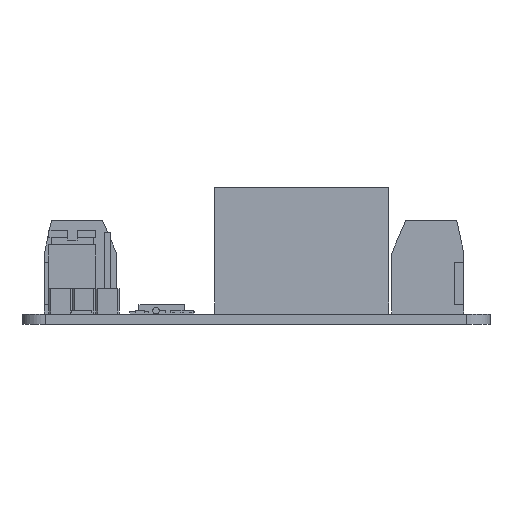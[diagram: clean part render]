
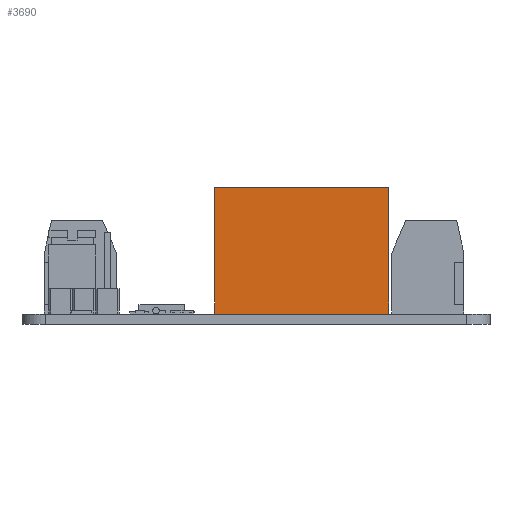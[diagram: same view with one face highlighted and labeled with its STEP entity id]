
A CAD part, front view. The second image highlights one B-rep face of the part: STEP entity #3690.
In plain terms, the highlighted planar face has unit normal (0, -1, 0).
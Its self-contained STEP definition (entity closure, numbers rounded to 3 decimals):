
#3651=CARTESIAN_POINT('Axis2P3D Location',(-4.4,-63.5,1.1)) ;
#3656=CARTESIAN_POINT('Line Origine',(-4.4,-63.5,7.85)) ;
#3660=CARTESIAN_POINT('Vertex',(-4.4,-63.5,1.1)) ;
#3662=CARTESIAN_POINT('Vertex',(-4.4,-63.5,14.6)) ;
#3665=CARTESIAN_POINT('Line Origine',(4.9,-63.5,1.1)) ;
#3669=CARTESIAN_POINT('Vertex',(14.2,-63.5,1.1)) ;
#3672=CARTESIAN_POINT('Line Origine',(14.2,-63.5,7.85)) ;
#3676=CARTESIAN_POINT('Vertex',(14.2,-63.5,14.6)) ;
#3679=CARTESIAN_POINT('Line Origine',(4.9,-63.5,14.6)) ;
#3652=DIRECTION('Axis2P3D Direction',(0.,-1.,0.)) ;
#3653=DIRECTION('Axis2P3D XDirection',(1.,0.,0.)) ;
#3657=DIRECTION('Vector Direction',(0.,0.,1.)) ;
#3666=DIRECTION('Vector Direction',(1.,0.,0.)) ;
#3673=DIRECTION('Vector Direction',(0.,0.,1.)) ;
#3680=DIRECTION('Vector Direction',(1.,0.,0.)) ;
#3654=AXIS2_PLACEMENT_3D('Plane Axis2P3D',#3651,#3652,#3653) ;
#3685=ORIENTED_EDGE('',*,*,#3664,.F.) ;
#3686=ORIENTED_EDGE('',*,*,#3671,.T.) ;
#3687=ORIENTED_EDGE('',*,*,#3678,.T.) ;
#3688=ORIENTED_EDGE('',*,*,#3683,.F.) ;
#3658=VECTOR('Line Direction',#3657,1.) ;
#3667=VECTOR('Line Direction',#3666,1.) ;
#3674=VECTOR('Line Direction',#3673,1.) ;
#3681=VECTOR('Line Direction',#3680,1.) ;
#3690=ADVANCED_FACE('Body.4',(#3689),#3655,.T.) ;
#3664=EDGE_CURVE('',#3661,#3663,#3659,.T.) ;
#3671=EDGE_CURVE('',#3661,#3670,#3668,.T.) ;
#3678=EDGE_CURVE('',#3670,#3677,#3675,.T.) ;
#3683=EDGE_CURVE('',#3663,#3677,#3682,.T.) ;
#3684=EDGE_LOOP('',(#3685,#3686,#3687,#3688)) ;
#3689=FACE_OUTER_BOUND('',#3684,.T.) ;
#3659=LINE('Line',#3656,#3658) ;
#3668=LINE('Line',#3665,#3667) ;
#3675=LINE('Line',#3672,#3674) ;
#3682=LINE('Line',#3679,#3681) ;
#3655=PLANE('Plane',#3654) ;
#3661=VERTEX_POINT('',#3660) ;
#3663=VERTEX_POINT('',#3662) ;
#3670=VERTEX_POINT('',#3669) ;
#3677=VERTEX_POINT('',#3676) ;
